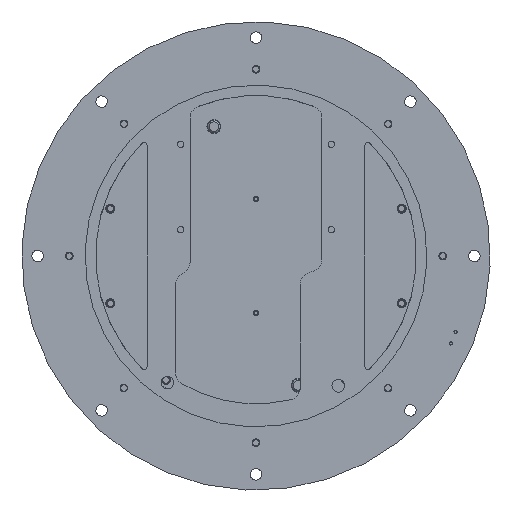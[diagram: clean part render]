
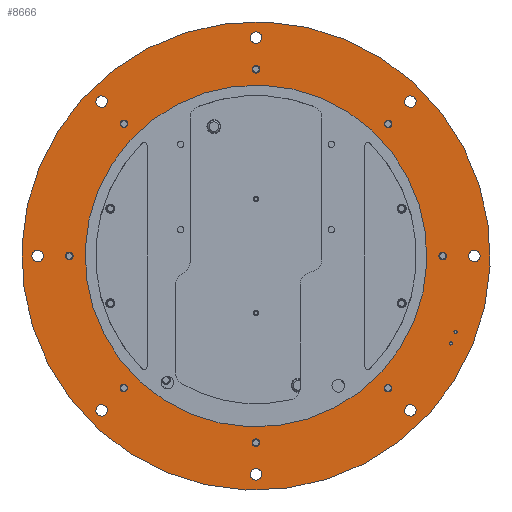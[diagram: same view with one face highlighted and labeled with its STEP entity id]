
A CAD part, front view. The second image highlights one B-rep face of the part: STEP entity #8666.
In plain terms, the highlighted planar face has unit normal (0, -1, 0).
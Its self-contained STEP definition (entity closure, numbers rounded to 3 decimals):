
#637=FACE_BOUND('',#1978,.T.);
#638=FACE_BOUND('',#1979,.T.);
#639=FACE_BOUND('',#1980,.T.);
#640=FACE_BOUND('',#1981,.T.);
#641=FACE_BOUND('',#1982,.T.);
#642=FACE_BOUND('',#1983,.T.);
#643=FACE_BOUND('',#1984,.T.);
#644=FACE_BOUND('',#1985,.T.);
#645=FACE_BOUND('',#1986,.T.);
#646=FACE_BOUND('',#1987,.T.);
#647=FACE_BOUND('',#1988,.T.);
#648=FACE_BOUND('',#1989,.T.);
#649=FACE_BOUND('',#1990,.T.);
#650=FACE_BOUND('',#1991,.T.);
#651=FACE_BOUND('',#1992,.T.);
#652=FACE_BOUND('',#1993,.T.);
#653=FACE_BOUND('',#1994,.T.);
#654=FACE_BOUND('',#1995,.T.);
#655=FACE_BOUND('',#1996,.T.);
#801=PLANE('',#9911);
#1346=FACE_OUTER_BOUND('',#1977,.T.);
#1977=EDGE_LOOP('',(#7126));
#1978=EDGE_LOOP('',(#7127));
#1979=EDGE_LOOP('',(#7128));
#1980=EDGE_LOOP('',(#7129));
#1981=EDGE_LOOP('',(#7130));
#1982=EDGE_LOOP('',(#7131));
#1983=EDGE_LOOP('',(#7132));
#1984=EDGE_LOOP('',(#7133));
#1985=EDGE_LOOP('',(#7134));
#1986=EDGE_LOOP('',(#7135));
#1987=EDGE_LOOP('',(#7136));
#1988=EDGE_LOOP('',(#7137));
#1989=EDGE_LOOP('',(#7138));
#1990=EDGE_LOOP('',(#7139));
#1991=EDGE_LOOP('',(#7140));
#1992=EDGE_LOOP('',(#7141));
#1993=EDGE_LOOP('',(#7142));
#1994=EDGE_LOOP('',(#7143));
#1995=EDGE_LOOP('',(#7144));
#1996=EDGE_LOOP('',(#7145));
#3636=CIRCLE('',#9852,2.459);
#3638=CIRCLE('',#9855,2.459);
#3640=CIRCLE('',#9858,5.053);
#3642=CIRCLE('',#9861,5.053);
#3644=CIRCLE('',#9864,5.053);
#3646=CIRCLE('',#9867,5.053);
#3648=CIRCLE('',#9870,5.053);
#3650=CIRCLE('',#9873,5.053);
#3652=CIRCLE('',#9876,5.053);
#3654=CIRCLE('',#9879,5.053);
#3656=CIRCLE('',#9882,9.);
#3658=CIRCLE('',#9885,9.);
#3660=CIRCLE('',#9888,9.);
#3662=CIRCLE('',#9891,9.);
#3664=CIRCLE('',#9894,9.);
#3666=CIRCLE('',#9897,9.);
#3668=CIRCLE('',#9900,9.);
#3670=CIRCLE('',#9903,9.);
#3672=CIRCLE('',#9906,270.);
#3674=CIRCLE('',#9909,370.);
#4281=VERTEX_POINT('',#14449);
#4283=VERTEX_POINT('',#14455);
#4285=VERTEX_POINT('',#14461);
#4287=VERTEX_POINT('',#14467);
#4289=VERTEX_POINT('',#14473);
#4291=VERTEX_POINT('',#14479);
#4293=VERTEX_POINT('',#14485);
#4295=VERTEX_POINT('',#14491);
#4297=VERTEX_POINT('',#14497);
#4299=VERTEX_POINT('',#14503);
#4301=VERTEX_POINT('',#14509);
#4303=VERTEX_POINT('',#14515);
#4305=VERTEX_POINT('',#14521);
#4307=VERTEX_POINT('',#14527);
#4309=VERTEX_POINT('',#14533);
#4311=VERTEX_POINT('',#14539);
#4313=VERTEX_POINT('',#14545);
#4315=VERTEX_POINT('',#14551);
#4317=VERTEX_POINT('',#14557);
#4319=VERTEX_POINT('',#14563);
#5254=EDGE_CURVE('',#4281,#4281,#3636,.T.);
#5257=EDGE_CURVE('',#4283,#4283,#3638,.T.);
#5260=EDGE_CURVE('',#4285,#4285,#3640,.T.);
#5263=EDGE_CURVE('',#4287,#4287,#3642,.T.);
#5266=EDGE_CURVE('',#4289,#4289,#3644,.T.);
#5269=EDGE_CURVE('',#4291,#4291,#3646,.T.);
#5272=EDGE_CURVE('',#4293,#4293,#3648,.T.);
#5275=EDGE_CURVE('',#4295,#4295,#3650,.T.);
#5278=EDGE_CURVE('',#4297,#4297,#3652,.T.);
#5281=EDGE_CURVE('',#4299,#4299,#3654,.T.);
#5284=EDGE_CURVE('',#4301,#4301,#3656,.T.);
#5287=EDGE_CURVE('',#4303,#4303,#3658,.T.);
#5290=EDGE_CURVE('',#4305,#4305,#3660,.T.);
#5293=EDGE_CURVE('',#4307,#4307,#3662,.T.);
#5296=EDGE_CURVE('',#4309,#4309,#3664,.T.);
#5299=EDGE_CURVE('',#4311,#4311,#3666,.T.);
#5302=EDGE_CURVE('',#4313,#4313,#3668,.T.);
#5305=EDGE_CURVE('',#4315,#4315,#3670,.T.);
#5308=EDGE_CURVE('',#4317,#4317,#3672,.T.);
#5311=EDGE_CURVE('',#4319,#4319,#3674,.T.);
#7126=ORIENTED_EDGE('',*,*,#5311,.F.);
#7127=ORIENTED_EDGE('',*,*,#5254,.T.);
#7128=ORIENTED_EDGE('',*,*,#5257,.T.);
#7129=ORIENTED_EDGE('',*,*,#5260,.T.);
#7130=ORIENTED_EDGE('',*,*,#5263,.T.);
#7131=ORIENTED_EDGE('',*,*,#5266,.T.);
#7132=ORIENTED_EDGE('',*,*,#5269,.T.);
#7133=ORIENTED_EDGE('',*,*,#5272,.T.);
#7134=ORIENTED_EDGE('',*,*,#5275,.T.);
#7135=ORIENTED_EDGE('',*,*,#5278,.T.);
#7136=ORIENTED_EDGE('',*,*,#5281,.T.);
#7137=ORIENTED_EDGE('',*,*,#5284,.T.);
#7138=ORIENTED_EDGE('',*,*,#5287,.T.);
#7139=ORIENTED_EDGE('',*,*,#5290,.T.);
#7140=ORIENTED_EDGE('',*,*,#5293,.T.);
#7141=ORIENTED_EDGE('',*,*,#5296,.T.);
#7142=ORIENTED_EDGE('',*,*,#5299,.T.);
#7143=ORIENTED_EDGE('',*,*,#5302,.T.);
#7144=ORIENTED_EDGE('',*,*,#5305,.T.);
#7145=ORIENTED_EDGE('',*,*,#5308,.F.);
#8666=ADVANCED_FACE('',(#1346,#637,#638,#639,#640,#641,#642,#643,#644,#645,
#646,#647,#648,#649,#650,#651,#652,#653,#654,#655),#801,.F.);
#9852=AXIS2_PLACEMENT_3D('',#14451,#11789,#11790);
#9855=AXIS2_PLACEMENT_3D('',#14457,#11796,#11797);
#9858=AXIS2_PLACEMENT_3D('',#14463,#11803,#11804);
#9861=AXIS2_PLACEMENT_3D('',#14469,#11810,#11811);
#9864=AXIS2_PLACEMENT_3D('',#14475,#11817,#11818);
#9867=AXIS2_PLACEMENT_3D('',#14481,#11824,#11825);
#9870=AXIS2_PLACEMENT_3D('',#14487,#11831,#11832);
#9873=AXIS2_PLACEMENT_3D('',#14493,#11838,#11839);
#9876=AXIS2_PLACEMENT_3D('',#14499,#11845,#11846);
#9879=AXIS2_PLACEMENT_3D('',#14505,#11852,#11853);
#9882=AXIS2_PLACEMENT_3D('',#14511,#11859,#11860);
#9885=AXIS2_PLACEMENT_3D('',#14517,#11866,#11867);
#9888=AXIS2_PLACEMENT_3D('',#14523,#11873,#11874);
#9891=AXIS2_PLACEMENT_3D('',#14529,#11880,#11881);
#9894=AXIS2_PLACEMENT_3D('',#14535,#11887,#11888);
#9897=AXIS2_PLACEMENT_3D('',#14541,#11894,#11895);
#9900=AXIS2_PLACEMENT_3D('',#14547,#11901,#11902);
#9903=AXIS2_PLACEMENT_3D('',#14553,#11908,#11909);
#9906=AXIS2_PLACEMENT_3D('',#14559,#11915,#11916);
#9909=AXIS2_PLACEMENT_3D('',#14565,#11922,#11923);
#9911=AXIS2_PLACEMENT_3D('',#14567,#11926,#11927);
#11789=DIRECTION('center_axis',(0.,1.,0.));
#11790=DIRECTION('ref_axis',(1.,0.,0.));
#11796=DIRECTION('center_axis',(0.,1.,0.));
#11797=DIRECTION('ref_axis',(1.,0.,0.));
#11803=DIRECTION('center_axis',(0.,1.,0.));
#11804=DIRECTION('ref_axis',(-0.707,0.,0.707));
#11810=DIRECTION('center_axis',(0.,1.,0.));
#11811=DIRECTION('ref_axis',(-0.707,0.,-0.707));
#11817=DIRECTION('center_axis',(0.,1.,0.));
#11818=DIRECTION('ref_axis',(0.707,0.,-0.707));
#11824=DIRECTION('center_axis',(0.,1.,0.));
#11825=DIRECTION('ref_axis',(0.,0.,-1.));
#11831=DIRECTION('center_axis',(0.,1.,0.));
#11832=DIRECTION('ref_axis',(-1.,0.,0.));
#11838=DIRECTION('center_axis',(0.,1.,0.));
#11839=DIRECTION('ref_axis',(0.,0.,1.));
#11845=DIRECTION('center_axis',(0.,1.,0.));
#11846=DIRECTION('ref_axis',(1.,0.,0.));
#11852=DIRECTION('center_axis',(0.,1.,0.));
#11853=DIRECTION('ref_axis',(1.,0.,0.));
#11859=DIRECTION('center_axis',(0.,1.,0.));
#11860=DIRECTION('ref_axis',(1.,0.,0.));
#11866=DIRECTION('center_axis',(0.,1.,0.));
#11867=DIRECTION('ref_axis',(1.,0.,0.));
#11873=DIRECTION('center_axis',(0.,1.,0.));
#11874=DIRECTION('ref_axis',(1.,0.,0.));
#11880=DIRECTION('center_axis',(0.,1.,0.));
#11881=DIRECTION('ref_axis',(1.,0.,0.));
#11887=DIRECTION('center_axis',(0.,1.,0.));
#11888=DIRECTION('ref_axis',(1.,0.,0.));
#11894=DIRECTION('center_axis',(0.,1.,0.));
#11895=DIRECTION('ref_axis',(1.,0.,0.));
#11901=DIRECTION('center_axis',(0.,1.,0.));
#11902=DIRECTION('ref_axis',(1.,0.,0.));
#11908=DIRECTION('center_axis',(0.,1.,0.));
#11909=DIRECTION('ref_axis',(1.,0.,0.));
#11915=DIRECTION('center_axis',(0.,-1.,0.));
#11916=DIRECTION('ref_axis',(1.,0.,0.));
#11922=DIRECTION('center_axis',(0.,1.,0.));
#11923=DIRECTION('ref_axis',(-1.,0.,0.));
#11926=DIRECTION('center_axis',(0.,1.,0.));
#11927=DIRECTION('ref_axis',(0.,0.,1.));
#14449=CARTESIAN_POINT('',(334.542,0.,10.));
#14451=CARTESIAN_POINT('Origin',(337.,0.,10.));
#14455=CARTESIAN_POINT('',(334.542,0.,-10.));
#14457=CARTESIAN_POINT('Origin',(337.,0.,-10.));
#14461=CARTESIAN_POINT('',(276.117,0.,109.319));
#14463=CARTESIAN_POINT('Origin',(272.544,0.,112.892));
#14467=CARTESIAN_POINT('',(-109.319,0.,276.117));
#14469=CARTESIAN_POINT('Origin',(-112.892,0.,272.544));
#14473=CARTESIAN_POINT('',(-276.117,0.,-109.319));
#14475=CARTESIAN_POINT('Origin',(-272.544,0.,-112.892));
#14479=CARTESIAN_POINT('',(-272.544,0.,117.945));
#14481=CARTESIAN_POINT('Origin',(-272.544,0.,112.892));
#14485=CARTESIAN_POINT('',(117.945,0.,272.544));
#14487=CARTESIAN_POINT('Origin',(112.892,0.,272.544));
#14491=CARTESIAN_POINT('',(272.544,0.,-117.945));
#14493=CARTESIAN_POINT('Origin',(272.544,0.,-112.892));
#14497=CARTESIAN_POINT('',(107.839,0.,-272.544));
#14499=CARTESIAN_POINT('Origin',(112.892,0.,-272.544));
#14503=CARTESIAN_POINT('',(-117.945,0.,-272.544));
#14505=CARTESIAN_POINT('Origin',(-112.892,0.,-272.544));
#14509=CARTESIAN_POINT('',(123.026,0.,318.738));
#14511=CARTESIAN_POINT('Origin',(132.026,0.,318.738));
#14515=CARTESIAN_POINT('',(-327.738,0.,132.026));
#14517=CARTESIAN_POINT('Origin',(-318.738,0.,132.026));
#14521=CARTESIAN_POINT('',(-141.026,0.,-318.738));
#14523=CARTESIAN_POINT('Origin',(-132.026,0.,-318.738));
#14527=CARTESIAN_POINT('',(309.738,0.,-132.026));
#14529=CARTESIAN_POINT('Origin',(318.738,0.,-132.026));
#14533=CARTESIAN_POINT('',(123.026,0.,-318.738));
#14535=CARTESIAN_POINT('Origin',(132.026,0.,-318.738));
#14539=CARTESIAN_POINT('',(-327.738,0.,-132.026));
#14541=CARTESIAN_POINT('Origin',(-318.738,0.,-132.026));
#14545=CARTESIAN_POINT('',(-141.026,0.,318.738));
#14547=CARTESIAN_POINT('Origin',(-132.026,0.,318.738));
#14551=CARTESIAN_POINT('',(309.738,0.,132.026));
#14553=CARTESIAN_POINT('Origin',(318.738,0.,132.026));
#14557=CARTESIAN_POINT('',(-270.,0.,0.));
#14559=CARTESIAN_POINT('Origin',(0.,0.,0.));
#14563=CARTESIAN_POINT('',(370.,0.,0.));
#14565=CARTESIAN_POINT('Origin',(0.,0.,0.));
#14567=CARTESIAN_POINT('Origin',(0.,0.,0.));
